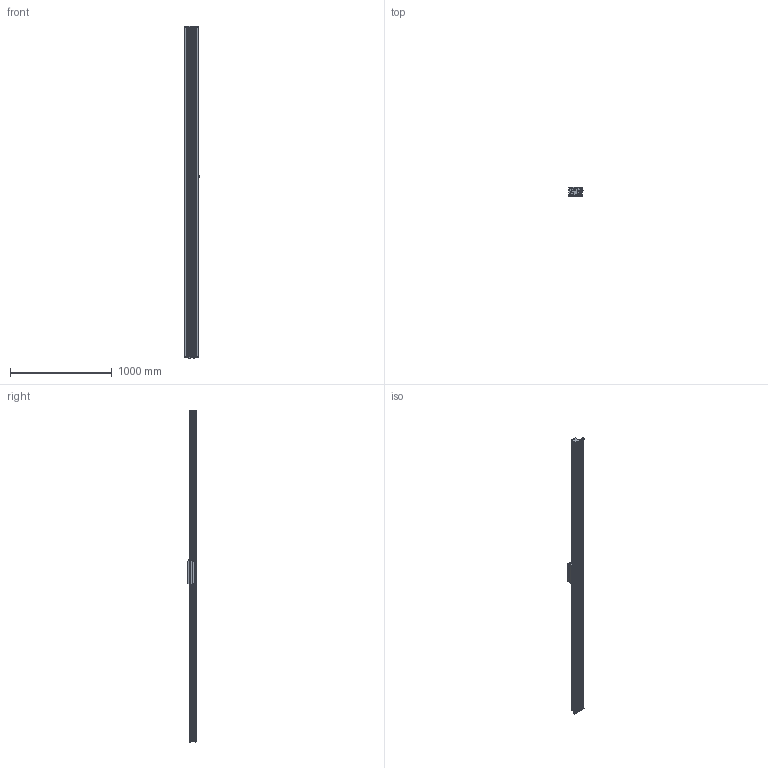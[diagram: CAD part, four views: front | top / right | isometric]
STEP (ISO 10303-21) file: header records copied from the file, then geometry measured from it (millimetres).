
FILE_DESCRIPTION (( 'STEP AP214' ), '1' );
FILE_NAME ('SINADRIVES Linear motor stage MLL20200XS-XX-1-0-ST-00-03252.STEP', '2015-07-13T06:20:36', ( 'Tecnico' ), ( '' ), 'SwSTEP 2.0', 'SolidWorks 2009', '' );
FILE_SCHEMA (( 'AUTOMOTIVE_DESIGN' ));
Length unit declared in the file: millimetre
Products named in the file (7): SINADRIVES PROFILE MLL2XXXX-3236; SINADRIVES CARRIAGE MLL20200XS-1; CARRIAGE MLL20200; Connector power+signal Y-tec 45; SINADRIVES ENDBLOCK MLL2; SINADRIVES ENDBLOCK MLL2-2; SINADRIVES Linear motor stage MLL20200XS-XX-1-0-ST-00-03252
Assembly tree (6 placements, depth 3):
  SINADRIVES Linear motor stage MLL20200XS-XX-1-0-ST-00-03252
    SINADRIVES ENDBLOCK MLL2
    SINADRIVES CARRIAGE MLL20200XS-1
      CARRIAGE MLL20200
      Connector power+signal Y-tec 45
    SINADRIVES PROFILE MLL2XXXX-3236
    SINADRIVES ENDBLOCK MLL2-2
Bounding box: 144.43 x 91 x 3260.8 mm (x, y, z)
Volume: 14214120.6 mm3; surface area: 2454804.5 mm2
Topology: 2 solids, 42 shells, 950 faces, 2640 edges, 1730 vertices
Faces by surface type: plane 445, cylinder 302, bspline 79, cone 70, torus 42, sphere 12
Entity records: 40587 total; most frequent: CARTESIAN_POINT 8656, ORIENTED_EDGE 5024, DIRECTION 4947, EDGE_CURVE 2622, AXIS2_PLACEMENT_3D 1781, VERTEX_POINT 1730, LINE 1385, VECTOR 1385
